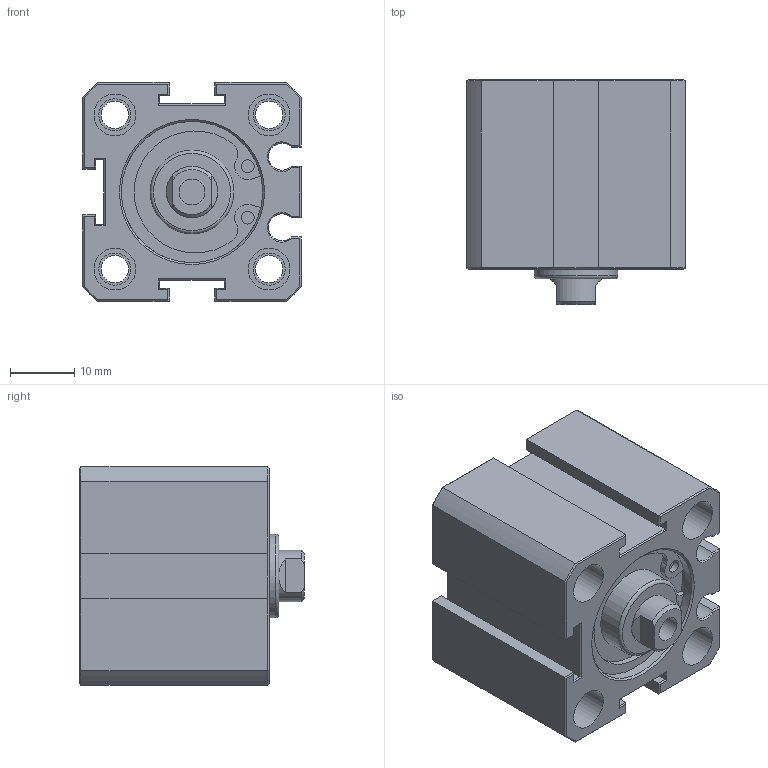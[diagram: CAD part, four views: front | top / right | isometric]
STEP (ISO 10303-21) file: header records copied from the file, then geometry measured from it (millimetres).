
FILE_DESCRIPTION(/* description */ (''),/* implementation_level */ '2;1');
FILE_NAME(/* name */ 'AJC-SD20X10N',/* time_stamp */ '2019-06-13T11:45:40+08:00',/* author */ ('JEFF HUANG'),/* organization */ ('TAIWAN AMAC CLAMP INDUSTRIAL CO., LTD.'),/* preprocessor_version */ 'ST-DEVELOPER v16.7',/* originating_system */ 'DEX',/* authorisation */ $);
FILE_SCHEMA (('AUTOMOTIVE_DESIGN {1 0 10303 214 3 1 1}'));
Length unit declared in the file: millimetre
Products named in the file (1): AJC-SD20X10N
Bounding box: 34 x 35 x 34 mm (x, y, z)
Volume: 26488.7 mm3; surface area: 10456.3 mm2
Topology: 1 solids, 1 shells, 213 faces, 460 edges, 277 vertices
Faces by surface type: plane 144, cylinder 51, cone 16, torus 2
Full cylindrical faces by diameter (mm): 2 x4, 4 x1, 4.3 x4, 5 x10, 6.5 x8, 13 x2, 22 x2
Entity records: 7025 total; most frequent: CARTESIAN_POINT 994, DIRECTION 948, ORIENTED_EDGE 844, EDGE_CURVE 422, AXIS2_PLACEMENT_3D 340, EDGE_LOOP 284, FACE_BOUND 284, VERTEX_POINT 274
